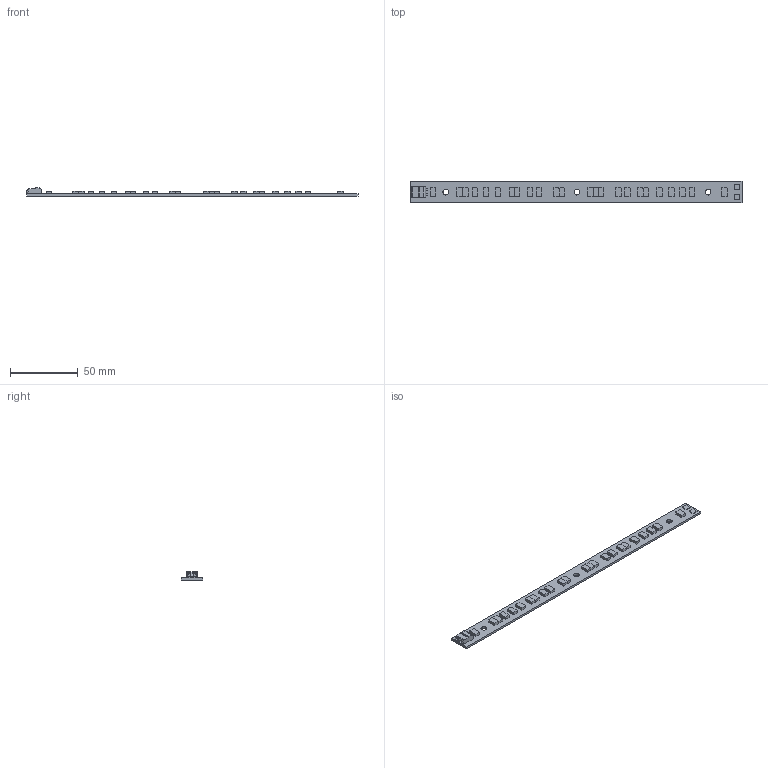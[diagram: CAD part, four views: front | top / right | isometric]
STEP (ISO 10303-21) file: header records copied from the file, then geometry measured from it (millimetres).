
FILE_DESCRIPTION((''),'2;1');
FILE_NAME('15007806Z_EM-ES_245_MK2','2013-06-13T',('juergen.hrach'),(''),'PRO/ENGINEER BY PARAMETRIC TECHNOLOGY CORPORATION, 2012420','PRO/ENGINEER BY PARAMETRIC TECHNOLOGY CORPORATION, 2012420','');
FILE_SCHEMA(('AUTOMOTIVE_DESIGN { 1 2 10303 214 0 1 1 1 }'));
Length unit declared in the file: millimetre
Products named in the file (1): 15007806Z_EM-ES_245_MK2
Bounding box: 245.5 x 15.8 x 5.95 mm (x, y, z)
Volume: 7703.3 mm3; surface area: 9622.9 mm2
Topology: 1 solids, 1 shells, 224 faces, 603 edges, 399 vertices
Faces by surface type: bspline 200, revolution 24
Entity records: 11462 total; most frequent: CARTESIAN_POINT 4382, ORIENTED_EDGE 1206, DIRECTION 651, PRESENTATION_STYLE_ASSIGNMENT 604, STYLED_ITEM 604, CURVE_STYLE 603, EDGE_CURVE 603, VECTOR 537
